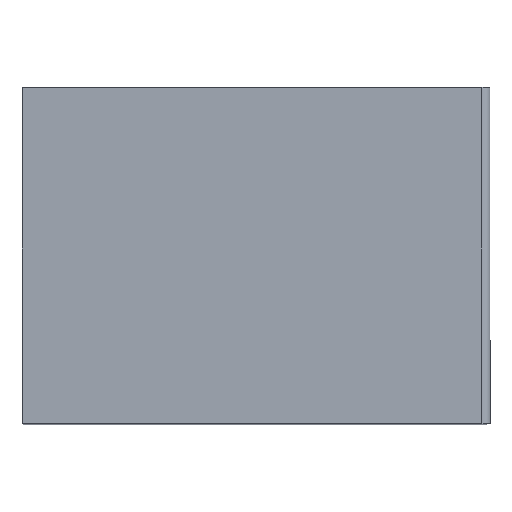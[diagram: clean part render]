
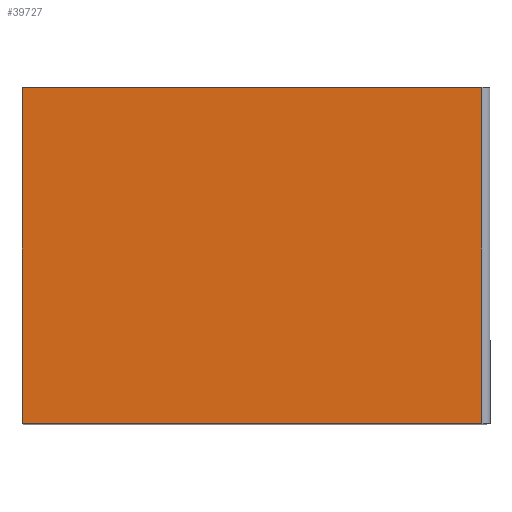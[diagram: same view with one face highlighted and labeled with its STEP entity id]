
A CAD part, top view. The second image highlights one B-rep face of the part: STEP entity #39727.
In plain terms, the highlighted planar face has unit normal (0, 0, 1) as drawn and (1, 0, 0) by its records, which use the part's own axes.
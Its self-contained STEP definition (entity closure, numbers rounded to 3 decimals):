
#1132=LINE('',#57080,#6151);
#1133=LINE('',#57082,#6152);
#1134=LINE('',#57083,#6153);
#1135=LINE('',#57085,#6154);
#6151=VECTOR('',#46919,1000.);
#6152=VECTOR('',#46920,1000.);
#6153=VECTOR('',#46921,1000.);
#6154=VECTOR('',#46922,1000.);
#12438=ORIENTED_EDGE('',*,*,#22699,.T.);
#12439=ORIENTED_EDGE('',*,*,#22700,.T.);
#12440=ORIENTED_EDGE('',*,*,#22701,.T.);
#12441=ORIENTED_EDGE('',*,*,#22702,.T.);
#22699=EDGE_CURVE('',#28037,#27952,#1132,.T.);
#22700=EDGE_CURVE('',#27952,#28035,#1133,.T.);
#22701=EDGE_CURVE('',#28035,#28038,#1134,.T.);
#22702=EDGE_CURVE('',#28038,#28037,#1135,.T.);
#27952=VERTEX_POINT('',#56879);
#28035=VERTEX_POINT('',#57075);
#28037=VERTEX_POINT('',#57081);
#28038=VERTEX_POINT('',#57084);
#32311=EDGE_LOOP('',(#12438,#12439,#12440,#12441));
#35349=FACE_BOUND('',#32311,.T.);
#37890=PLANE('',#42962);
#39727=ADVANCED_FACE('',(#35349),#37890,.T.);
#42962=AXIS2_PLACEMENT_3D('',#57079,#46917,#46918);
#46917=DIRECTION('',(1.,0.,0.));
#46918=DIRECTION('',(0.,0.,-1.));
#46919=DIRECTION('',(0.,0.,-1.));
#46920=DIRECTION('',(0.,1.,0.));
#46921=DIRECTION('',(0.,0.,1.));
#46922=DIRECTION('',(0.,-1.,0.));
#56879=CARTESIAN_POINT('',(0.,-216.798,-291.918));
#57075=CARTESIAN_POINT('',(0.,216.798,-291.918));
#57079=CARTESIAN_POINT('',(0.,217.4,-292.52));
#57080=CARTESIAN_POINT('',(0.,-216.798,301.3));
#57081=CARTESIAN_POINT('',(0.,-216.798,301.3));
#57082=CARTESIAN_POINT('',(0.,-216.798,-291.918));
#57083=CARTESIAN_POINT('',(0.,216.798,-292.52));
#57084=CARTESIAN_POINT('',(0.,216.798,301.3));
#57085=CARTESIAN_POINT('',(0.,217.4,301.3));
